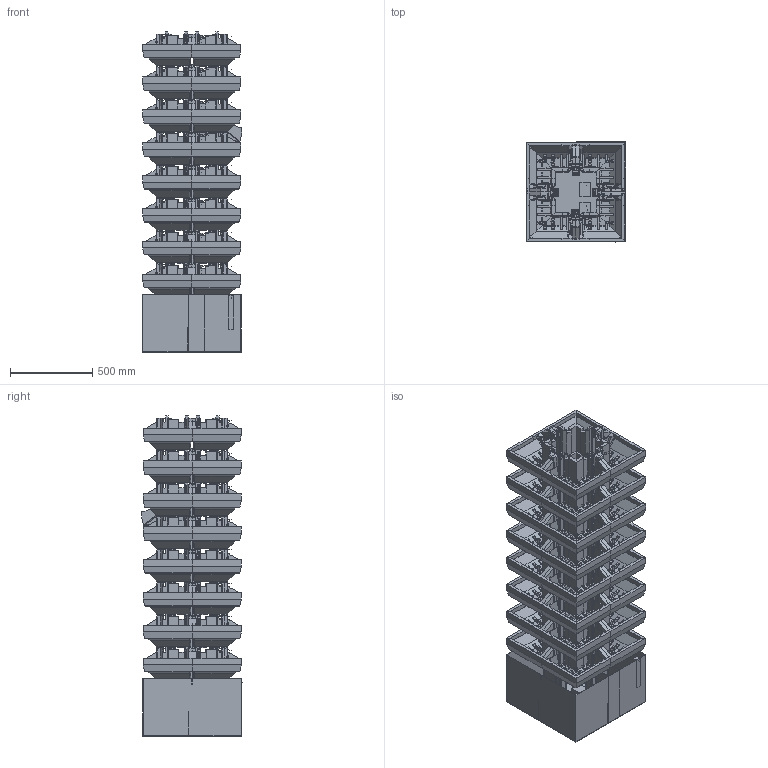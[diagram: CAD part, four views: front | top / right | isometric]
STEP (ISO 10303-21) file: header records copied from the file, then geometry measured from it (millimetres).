
FILE_DESCRIPTION(/* description */ (''),/* implementation_level */ '2;1');
FILE_NAME(/* name */ 'VP_EASY_colonna',/* time_stamp */ '2023-05-16T09:26:19+02:00',/* author */ (''),/* organization */ (''),/* preprocessor_version */ 'ST-DEVELOPER v16.5',/* originating_system */ 'Rhino 7.20',/* authorisation */ '');
FILE_SCHEMA (('CONFIG_CONTROL_DESIGN'));
Products named in the file (1): Document
Bounding box: 603.14 x 609.47 x 1948.98 mm (x, y, z)
Volume: 2709126.4 mm3; surface area: 21336715.2 mm2
Topology: 129 solids, 201 shells, 18048 faces, 46773 edges, 28018 vertices
Faces by surface type: plane 9962, cylinder 5316, bspline 2770
Full cylindrical faces by diameter (mm): 4.8 x192, 8 x1, 12 x1, 13 x20, 14.546 x2, 16 x1, 18.221 x6, 24 x1, 24.598 x8, 24.782 x18, 27.99 x16, 28.178 x8
Entity records: 965460 total; most frequent: CARTESIAN_POINT 671577, ORIENTED_EDGE 89590, EDGE_CURVE 46682, B_SPLINE_CURVE_WITH_KNOTS 28091, VERTEX_POINT 27985, EDGE_LOOP 18284, ADVANCED_FACE 18048, FACE_OUTER_BOUND 18048
